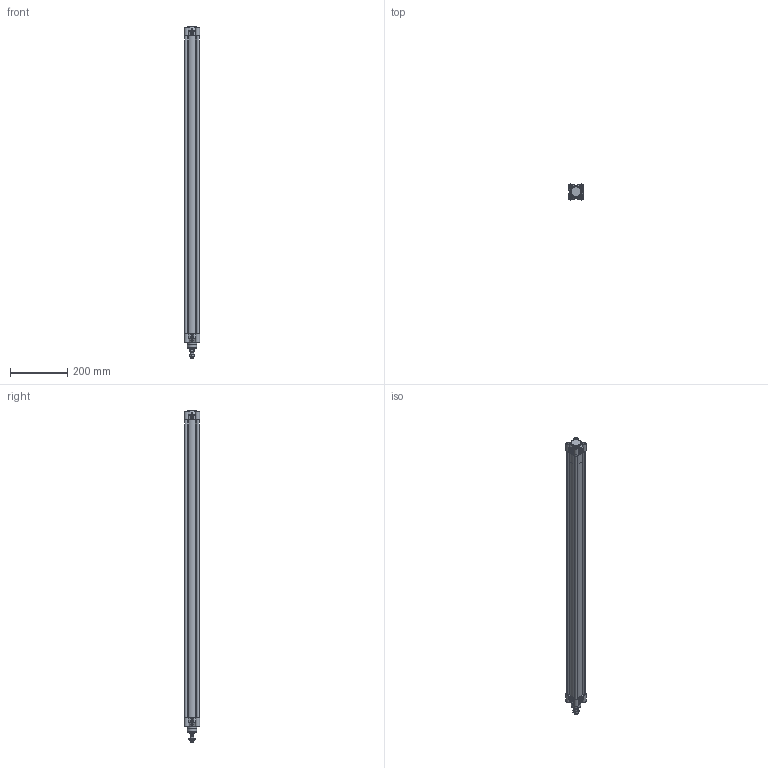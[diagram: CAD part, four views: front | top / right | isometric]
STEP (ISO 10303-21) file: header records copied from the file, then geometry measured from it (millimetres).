
FILE_DESCRIPTION(/* description */ ('Unknown'),/* implementation_level */ '2;1');
FILE_NAME(/* name */ 'HIF 40_1000',/* time_stamp */ '2024-08-12T08:28:01+02:00',/* author */ ('Unknown'),/* organization */ ('Unknown'),/* preprocessor_version */ 'ST-DEVELOPER v16.7',/* originating_system */ 'Solid Edge',/* authorisation */ 'Unknown');
FILE_SCHEMA (('AUTOMOTIVE_DESIGN {1 0 10303 214 3 1 1}'));
Length unit declared in the file: millimetre
Products named in the file (6): HIF 40_1000; Kit_2; Kit_1; Profilrohr 40_1000; Mutter; Kolbenstange 40_1000
Assembly tree (5 placements, depth 2):
  HIF 40_1000
    Kit_2
    Kit_1
    Profilrohr 40_1000
    Mutter
    Kolbenstange 40_1000
Bounding box: 54.5 x 54.5 x 1163 mm (x, y, z)
Volume: 1065199.4 mm3; surface area: 667162.2 mm2
Topology: 5 solids, 10 shells, 922 faces, 2342 edges, 1525 vertices
Faces by surface type: plane 367, cylinder 300, cone 89, torus 74, bspline 74, sphere 18
Full cylindrical faces by diameter (mm): 2.5 x2, 4.917 x16, 6 x8, 6.2 x8, 7 x2, 9.9 x2, 10 x13, 10.3 x8, 10.647 x1, 11.44 x2, 11.445 x2, 12 x1, 15.5 x1, 16 x2, 16.6 x1, 16.8 x1, 16.847 x1, 20 x1, 26 x2, 33 x1, 35 x2, 40 x2
Entity records: 35939 total; most frequent: CARTESIAN_POINT 8998, ORIENTED_EDGE 4544, DIRECTION 4322, EDGE_CURVE 2272, AXIS2_PLACEMENT_3D 1647, VERTEX_POINT 1507, FACE_BOUND 1081, EDGE_LOOP 1073
